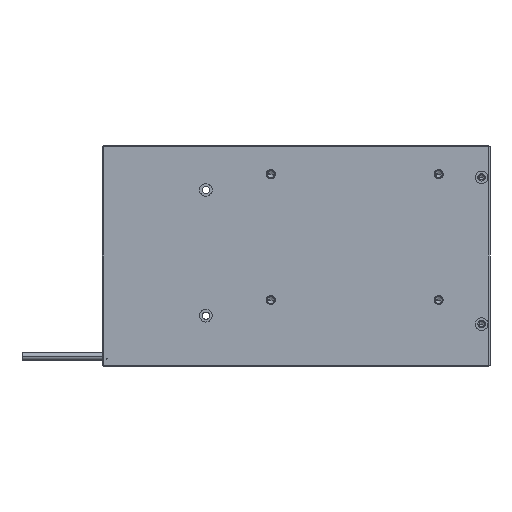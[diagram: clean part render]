
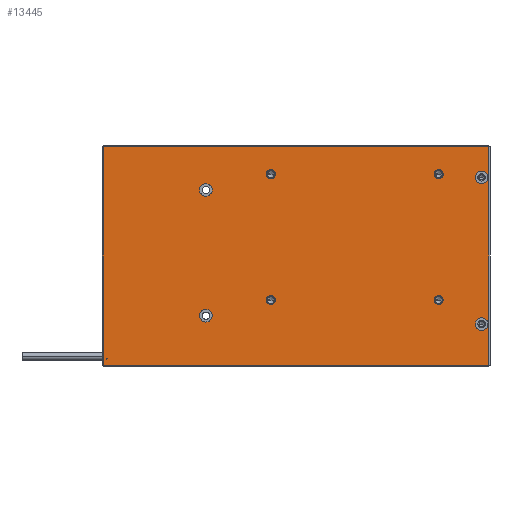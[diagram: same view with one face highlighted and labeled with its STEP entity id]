
A CAD part, front view. The second image highlights one B-rep face of the part: STEP entity #13445.
In plain terms, the highlighted planar face has unit normal (0, -1, 0).
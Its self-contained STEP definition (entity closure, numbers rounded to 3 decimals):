
#3446=DIRECTION('',(0.,0.,1.));
#3447=VECTOR('',#3446,0.5);
#3448=CARTESIAN_POINT('',(-116.,0.,-51.25));
#3449=LINE('',#3448,#3447);
#4177=DIRECTION('',(-1.,0.,0.));
#4178=VECTOR('',#4177,184.);
#4179=CARTESIAN_POINT('',(66.5,0.,50.25));
#4180=LINE('',#4179,#4178);
#4197=DIRECTION('',(-0.707,0.,-0.707));
#4198=VECTOR('',#4197,0.707);
#4199=CARTESIAN_POINT('',(-115.5,0.,-50.75));
#4200=LINE('',#4199,#4198);
#4201=DIRECTION('',(-1.,0.,0.));
#4202=VECTOR('',#4201,0.5);
#4203=CARTESIAN_POINT('',(-115.5,0.,-50.75));
#4204=LINE('',#4203,#4202);
#4205=CARTESIAN_POINT('',(63.,0.,35.75));
#4206=DIRECTION('',(0.,-1.,0.));
#4207=DIRECTION('',(-1.,0.,0.));
#4208=AXIS2_PLACEMENT_3D('',#4205,#4206,#4207);
#4210=CARTESIAN_POINT('',(63.,0.,35.75));
#4211=DIRECTION('',(0.,-1.,0.));
#4212=DIRECTION('',(1.,0.,0.));
#4213=AXIS2_PLACEMENT_3D('',#4210,#4211,#4212);
#4215=CARTESIAN_POINT('',(63.,0.,-34.25));
#4216=DIRECTION('',(0.,-1.,0.));
#4217=DIRECTION('',(-1.,0.,0.));
#4218=AXIS2_PLACEMENT_3D('',#4215,#4216,#4217);
#4220=CARTESIAN_POINT('',(63.,0.,-34.25));
#4221=DIRECTION('',(0.,-1.,0.));
#4222=DIRECTION('',(1.,0.,0.));
#4223=AXIS2_PLACEMENT_3D('',#4220,#4221,#4222);
#4225=CARTESIAN_POINT('',(42.5,0.,37.25));
#4226=DIRECTION('',(0.,1.,0.));
#4227=DIRECTION('',(-1.,0.,0.));
#4228=AXIS2_PLACEMENT_3D('',#4225,#4226,#4227);
#4230=CARTESIAN_POINT('',(42.5,0.,37.25));
#4231=DIRECTION('',(0.,1.,0.));
#4232=DIRECTION('',(1.,0.,0.));
#4233=AXIS2_PLACEMENT_3D('',#4230,#4231,#4232);
#4235=CARTESIAN_POINT('',(42.5,0.,-22.75));
#4236=DIRECTION('',(0.,1.,0.));
#4237=DIRECTION('',(-1.,0.,0.));
#4238=AXIS2_PLACEMENT_3D('',#4235,#4236,#4237);
#4240=CARTESIAN_POINT('',(42.5,0.,-22.75));
#4241=DIRECTION('',(0.,1.,0.));
#4242=DIRECTION('',(1.,0.,0.));
#4243=AXIS2_PLACEMENT_3D('',#4240,#4241,#4242);
#4245=CARTESIAN_POINT('',(-37.5,0.,-22.75));
#4246=DIRECTION('',(0.,1.,0.));
#4247=DIRECTION('',(-1.,0.,0.));
#4248=AXIS2_PLACEMENT_3D('',#4245,#4246,#4247);
#4250=CARTESIAN_POINT('',(-37.5,0.,-22.75));
#4251=DIRECTION('',(0.,1.,0.));
#4252=DIRECTION('',(1.,0.,0.));
#4253=AXIS2_PLACEMENT_3D('',#4250,#4251,#4252);
#4255=CARTESIAN_POINT('',(-37.5,0.,37.25));
#4256=DIRECTION('',(0.,1.,0.));
#4257=DIRECTION('',(-1.,0.,0.));
#4258=AXIS2_PLACEMENT_3D('',#4255,#4256,#4257);
#4260=CARTESIAN_POINT('',(-37.5,0.,37.25));
#4261=DIRECTION('',(0.,1.,0.));
#4262=DIRECTION('',(1.,0.,0.));
#4263=AXIS2_PLACEMENT_3D('',#4260,#4261,#4262);
#4265=CARTESIAN_POINT('',(-68.5,0.,-30.25));
#4266=DIRECTION('',(0.,-1.,0.));
#4267=DIRECTION('',(-1.,0.,0.));
#4268=AXIS2_PLACEMENT_3D('',#4265,#4266,#4267);
#4270=CARTESIAN_POINT('',(-68.5,0.,-30.25));
#4271=DIRECTION('',(0.,-1.,0.));
#4272=DIRECTION('',(1.,0.,0.));
#4273=AXIS2_PLACEMENT_3D('',#4270,#4271,#4272);
#4275=CARTESIAN_POINT('',(-68.5,0.,29.75));
#4276=DIRECTION('',(0.,-1.,0.));
#4277=DIRECTION('',(-1.,0.,0.));
#4278=AXIS2_PLACEMENT_3D('',#4275,#4276,#4277);
#4280=CARTESIAN_POINT('',(-68.5,0.,29.75));
#4281=DIRECTION('',(0.,-1.,0.));
#4282=DIRECTION('',(1.,0.,0.));
#4283=AXIS2_PLACEMENT_3D('',#4280,#4281,#4282);
#4285=DIRECTION('',(0.,0.,1.));
#4286=VECTOR('',#4285,104.);
#4287=CARTESIAN_POINT('',(-117.5,0.,-53.75));
#4288=LINE('',#4287,#4286);
#4761=DIRECTION('',(0.,0.,1.));
#4762=VECTOR('',#4761,104.);
#4763=CARTESIAN_POINT('',(66.5,0.,-53.75));
#4764=LINE('',#4763,#4762);
#4769=DIRECTION('',(1.,0.,0.));
#4770=VECTOR('',#4769,184.);
#4771=CARTESIAN_POINT('',(-117.5,0.,-53.75));
#4772=LINE('',#4771,#4770);
#6553=CARTESIAN_POINT('',(60.,0.,35.75));
#6554=CARTESIAN_POINT('',(66.,0.,35.75));
#6555=VERTEX_POINT('',#6553);
#6556=VERTEX_POINT('',#6554);
#6565=CARTESIAN_POINT('',(60.,0.,-34.25));
#6566=CARTESIAN_POINT('',(66.,0.,-34.25));
#6567=VERTEX_POINT('',#6565);
#6568=VERTEX_POINT('',#6566);
#6593=CARTESIAN_POINT('',(40.35,0.,37.25));
#6594=CARTESIAN_POINT('',(44.65,0.,37.25));
#6595=VERTEX_POINT('',#6593);
#6596=VERTEX_POINT('',#6594);
#6601=CARTESIAN_POINT('',(40.35,0.,-22.75));
#6602=CARTESIAN_POINT('',(44.65,0.,-22.75));
#6603=VERTEX_POINT('',#6601);
#6604=VERTEX_POINT('',#6602);
#6609=CARTESIAN_POINT('',(-39.65,0.,-22.75));
#6610=CARTESIAN_POINT('',(-35.35,0.,-22.75));
#6611=VERTEX_POINT('',#6609);
#6612=VERTEX_POINT('',#6610);
#6617=CARTESIAN_POINT('',(-39.65,0.,37.25));
#6618=CARTESIAN_POINT('',(-35.35,0.,37.25));
#6619=VERTEX_POINT('',#6617);
#6620=VERTEX_POINT('',#6618);
#6626=CARTESIAN_POINT('',(66.5,0.,50.25));
#6628=VERTEX_POINT('',#6626);
#6705=CARTESIAN_POINT('',(-71.5,0.,-30.25));
#6706=CARTESIAN_POINT('',(-65.5,0.,-30.25));
#6707=VERTEX_POINT('',#6705);
#6708=VERTEX_POINT('',#6706);
#6709=CARTESIAN_POINT('',(-71.5,0.,29.75));
#6710=CARTESIAN_POINT('',(-65.5,0.,29.75));
#6711=VERTEX_POINT('',#6709);
#6712=VERTEX_POINT('',#6710);
#6782=CARTESIAN_POINT('',(-117.5,0.,50.25));
#6784=VERTEX_POINT('',#6782);
#6861=CARTESIAN_POINT('',(-117.5,0.,-53.75));
#6862=VERTEX_POINT('',#6861);
#7185=CARTESIAN_POINT('',(-116.,0.,-50.75));
#7187=VERTEX_POINT('',#7185);
#7265=CARTESIAN_POINT('',(66.5,0.,-53.75));
#7266=VERTEX_POINT('',#7265);
#7537=CARTESIAN_POINT('',(-115.5,0.,-50.75));
#7539=VERTEX_POINT('',#7537);
#7571=CARTESIAN_POINT('',(-116.,0.,-51.25));
#7573=VERTEX_POINT('',#7571);
#13379=CARTESIAN_POINT('',(0.,0.,0.));
#13380=DIRECTION('',(0.,1.,0.));
#13381=DIRECTION('',(1.,0.,0.));
#13382=AXIS2_PLACEMENT_3D('',#13379,#13380,#13381);
#13383=PLANE('',#13382);
#13384=ORIENTED_EDGE('',*,*,#13368,.F.);
#13386=ORIENTED_EDGE('',*,*,#13385,.F.);
#13388=ORIENTED_EDGE('',*,*,#13387,.F.);
#13389=ORIENTED_EDGE('',*,*,#13340,.T.);
#13390=EDGE_LOOP('',(#13384,#13386,#13388,#13389));
#13391=FACE_OUTER_BOUND('',#13390,.F.);
#13393=ORIENTED_EDGE('',*,*,#13392,.T.);
#13395=ORIENTED_EDGE('',*,*,#13394,.T.);
#13396=EDGE_LOOP('',(#13393,#13395));
#13397=FACE_BOUND('',#13396,.F.);
#13399=ORIENTED_EDGE('',*,*,#13398,.T.);
#13401=ORIENTED_EDGE('',*,*,#13400,.T.);
#13402=EDGE_LOOP('',(#13399,#13401));
#13403=FACE_BOUND('',#13402,.F.);
#13405=ORIENTED_EDGE('',*,*,#13404,.F.);
#13407=ORIENTED_EDGE('',*,*,#13406,.F.);
#13408=EDGE_LOOP('',(#13405,#13407));
#13409=FACE_BOUND('',#13408,.F.);
#13411=ORIENTED_EDGE('',*,*,#13410,.F.);
#13413=ORIENTED_EDGE('',*,*,#13412,.F.);
#13414=EDGE_LOOP('',(#13411,#13413));
#13415=FACE_BOUND('',#13414,.F.);
#13417=ORIENTED_EDGE('',*,*,#13416,.F.);
#13419=ORIENTED_EDGE('',*,*,#13418,.F.);
#13420=EDGE_LOOP('',(#13417,#13419));
#13421=FACE_BOUND('',#13420,.F.);
#13423=ORIENTED_EDGE('',*,*,#13422,.F.);
#13425=ORIENTED_EDGE('',*,*,#13424,.F.);
#13426=EDGE_LOOP('',(#13423,#13425));
#13427=FACE_BOUND('',#13426,.F.);
#13429=ORIENTED_EDGE('',*,*,#13428,.T.);
#13431=ORIENTED_EDGE('',*,*,#13430,.T.);
#13432=EDGE_LOOP('',(#13429,#13431));
#13433=FACE_BOUND('',#13432,.F.);
#13435=ORIENTED_EDGE('',*,*,#13434,.T.);
#13437=ORIENTED_EDGE('',*,*,#13436,.T.);
#13438=EDGE_LOOP('',(#13435,#13437));
#13439=FACE_BOUND('',#13438,.F.);
#13440=ORIENTED_EDGE('',*,*,#12358,.F.);
#13441=ORIENTED_EDGE('',*,*,#12117,.F.);
#13442=ORIENTED_EDGE('',*,*,#11904,.T.);
#13443=EDGE_LOOP('',(#13440,#13441,#13442));
#13444=FACE_BOUND('',#13443,.F.);
#4209=CIRCLE('',#4208,3.);
#4214=CIRCLE('',#4213,3.);
#4219=CIRCLE('',#4218,3.);
#4224=CIRCLE('',#4223,3.);
#4229=CIRCLE('',#4228,2.15);
#4234=CIRCLE('',#4233,2.15);
#4239=CIRCLE('',#4238,2.15);
#4244=CIRCLE('',#4243,2.15);
#4249=CIRCLE('',#4248,2.15);
#4254=CIRCLE('',#4253,2.15);
#4259=CIRCLE('',#4258,2.15);
#4264=CIRCLE('',#4263,2.15);
#4269=CIRCLE('',#4268,3.);
#4274=CIRCLE('',#4273,3.);
#4279=CIRCLE('',#4278,3.);
#4284=CIRCLE('',#4283,3.);
#11904=EDGE_CURVE('',#7539,#7187,#4204,.T.);
#12117=EDGE_CURVE('',#7539,#7573,#4200,.T.);
#12358=EDGE_CURVE('',#7573,#7187,#3449,.T.);
#13340=EDGE_CURVE('',#6862,#6784,#4288,.T.);
#13368=EDGE_CURVE('',#6628,#6784,#4180,.T.);
#13385=EDGE_CURVE('',#7266,#6628,#4764,.T.);
#13387=EDGE_CURVE('',#6862,#7266,#4772,.T.);
#13392=EDGE_CURVE('',#6555,#6556,#4209,.T.);
#13394=EDGE_CURVE('',#6556,#6555,#4214,.T.);
#13398=EDGE_CURVE('',#6567,#6568,#4219,.T.);
#13400=EDGE_CURVE('',#6568,#6567,#4224,.T.);
#13404=EDGE_CURVE('',#6595,#6596,#4229,.T.);
#13406=EDGE_CURVE('',#6596,#6595,#4234,.T.);
#13410=EDGE_CURVE('',#6603,#6604,#4239,.T.);
#13412=EDGE_CURVE('',#6604,#6603,#4244,.T.);
#13416=EDGE_CURVE('',#6611,#6612,#4249,.T.);
#13418=EDGE_CURVE('',#6612,#6611,#4254,.T.);
#13422=EDGE_CURVE('',#6619,#6620,#4259,.T.);
#13424=EDGE_CURVE('',#6620,#6619,#4264,.T.);
#13428=EDGE_CURVE('',#6707,#6708,#4269,.T.);
#13430=EDGE_CURVE('',#6708,#6707,#4274,.T.);
#13434=EDGE_CURVE('',#6711,#6712,#4279,.T.);
#13436=EDGE_CURVE('',#6712,#6711,#4284,.T.);
#13445=ADVANCED_FACE('',(#13391,#13397,#13403,#13409,#13415,#13421,#13427,
#13433,#13439,#13444),#13383,.F.);
